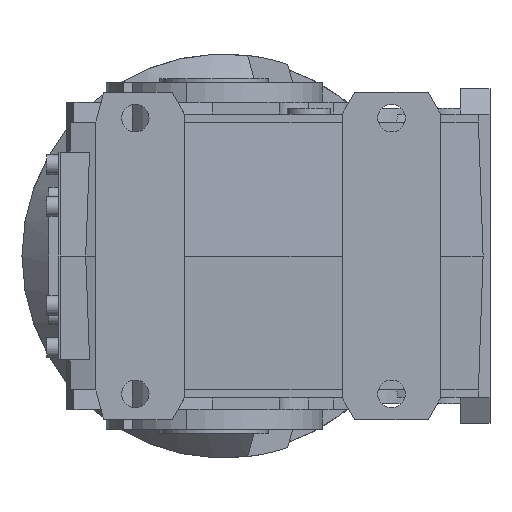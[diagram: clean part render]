
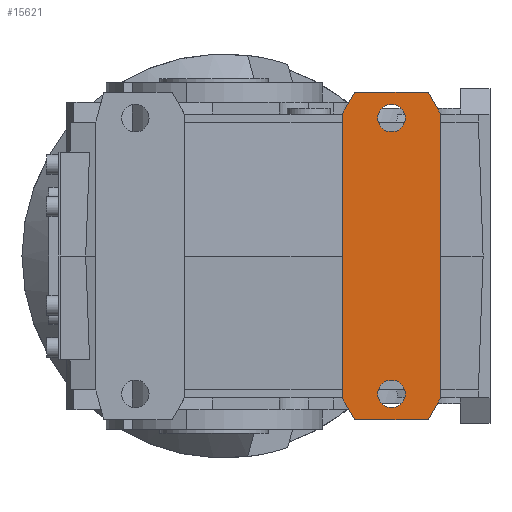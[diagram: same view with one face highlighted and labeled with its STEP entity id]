
A CAD part, left-side view. The second image highlights one B-rep face of the part: STEP entity #15621.
In plain terms, the highlighted planar face has unit normal (-1, 0, 0) as drawn and (1, 0, 0) by its records, which use the part's own axes.
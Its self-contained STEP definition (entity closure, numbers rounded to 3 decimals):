
#396=LINE('',#20797,#1554);
#397=LINE('',#20800,#1555);
#398=LINE('',#20802,#1556);
#399=LINE('',#20804,#1557);
#400=LINE('',#20806,#1558);
#401=LINE('',#20808,#1559);
#402=LINE('',#20810,#1560);
#403=LINE('',#20812,#1561);
#1554=VECTOR('',#17503,1000.);
#1555=VECTOR('',#17504,1000.);
#1556=VECTOR('',#17505,1000.);
#1557=VECTOR('',#17506,1000.);
#1558=VECTOR('',#17507,1000.);
#1559=VECTOR('',#17508,1000.);
#1560=VECTOR('',#17509,1000.);
#1561=VECTOR('',#17510,1000.);
#2739=ORIENTED_EDGE('',*,*,#5859,.F.);
#2740=ORIENTED_EDGE('',*,*,#5860,.F.);
#2741=ORIENTED_EDGE('',*,*,#5861,.F.);
#2742=ORIENTED_EDGE('',*,*,#5862,.T.);
#2743=ORIENTED_EDGE('',*,*,#5863,.T.);
#2744=ORIENTED_EDGE('',*,*,#5864,.T.);
#2745=ORIENTED_EDGE('',*,*,#5865,.T.);
#2746=ORIENTED_EDGE('',*,*,#5866,.T.);
#2747=ORIENTED_EDGE('',*,*,#5867,.T.);
#2748=ORIENTED_EDGE('',*,*,#5868,.T.);
#5859=EDGE_CURVE('',#7414,#7414,#8426,.T.);
#5860=EDGE_CURVE('',#7415,#7415,#8427,.T.);
#5861=EDGE_CURVE('',#7416,#7417,#396,.T.);
#5862=EDGE_CURVE('',#7416,#7418,#397,.T.);
#5863=EDGE_CURVE('',#7418,#7419,#398,.T.);
#5864=EDGE_CURVE('',#7419,#7420,#399,.T.);
#5865=EDGE_CURVE('',#7420,#7421,#400,.T.);
#5866=EDGE_CURVE('',#7421,#7422,#401,.T.);
#5867=EDGE_CURVE('',#7422,#7423,#402,.T.);
#5868=EDGE_CURVE('',#7423,#7417,#403,.T.);
#7414=VERTEX_POINT('',#20794);
#7415=VERTEX_POINT('',#20796);
#7416=VERTEX_POINT('',#20798);
#7417=VERTEX_POINT('',#20799);
#7418=VERTEX_POINT('',#20801);
#7419=VERTEX_POINT('',#20803);
#7420=VERTEX_POINT('',#20805);
#7421=VERTEX_POINT('',#20807);
#7422=VERTEX_POINT('',#20809);
#7423=VERTEX_POINT('',#20811);
#8426=CIRCLE('',#16330,7.);
#8427=CIRCLE('',#16331,7.);
#8781=EDGE_LOOP('',(#2739));
#8782=EDGE_LOOP('',(#2740));
#8783=EDGE_LOOP('',(#2741,#2742,#2743,#2744,#2745,#2746,#2747,#2748));
#9654=FACE_BOUND('',#8781,.T.);
#9655=FACE_BOUND('',#8782,.T.);
#9656=FACE_BOUND('',#8783,.T.);
#10533=PLANE('',#16329);
#15621=ADVANCED_FACE('',(#9654,#9655,#9656),#10533,.T.);
#16329=AXIS2_PLACEMENT_3D('',#20792,#17497,#17498);
#16330=AXIS2_PLACEMENT_3D('',#20793,#17499,#17500);
#16331=AXIS2_PLACEMENT_3D('',#20795,#17501,#17502);
#17497=DIRECTION('',(1.,0.,0.));
#17498=DIRECTION('',(0.,0.,-1.));
#17499=DIRECTION('',(1.,0.,0.));
#17500=DIRECTION('',(0.,0.,-1.));
#17501=DIRECTION('',(1.,0.,0.));
#17502=DIRECTION('',(0.,0.,-1.));
#17503=DIRECTION('',(0.,0.,1.));
#17504=DIRECTION('',(0.,0.5,-0.866));
#17505=DIRECTION('',(0.,1.,0.));
#17506=DIRECTION('',(0.,0.5,0.866));
#17507=DIRECTION('',(0.,0.,1.));
#17508=DIRECTION('',(0.,-0.5,0.866));
#17509=DIRECTION('',(0.,-1.,0.));
#17510=DIRECTION('',(0.,-0.5,-0.866));
#20792=CARTESIAN_POINT('',(282.,0.,0.));
#20793=CARTESIAN_POINT('',(282.,-85.,70.));
#20794=CARTESIAN_POINT('',(282.,-85.,63.));
#20795=CARTESIAN_POINT('',(282.,-85.,-70.));
#20796=CARTESIAN_POINT('',(282.,-85.,-77.));
#20797=CARTESIAN_POINT('',(282.,-110.,0.));
#20798=CARTESIAN_POINT('',(282.,-110.,-72.));
#20799=CARTESIAN_POINT('',(282.,-110.,72.));
#20800=CARTESIAN_POINT('',(282.,-110.,-72.));
#20801=CARTESIAN_POINT('',(282.,-103.649,-83.));
#20802=CARTESIAN_POINT('',(282.,-103.649,-83.));
#20803=CARTESIAN_POINT('',(282.,-66.351,-83.));
#20804=CARTESIAN_POINT('',(282.,-66.351,-83.));
#20805=CARTESIAN_POINT('',(282.,-60.,-72.));
#20806=CARTESIAN_POINT('',(282.,-60.,0.));
#20807=CARTESIAN_POINT('',(282.,-60.,72.));
#20808=CARTESIAN_POINT('',(282.,-60.,72.));
#20809=CARTESIAN_POINT('',(282.,-66.351,83.));
#20810=CARTESIAN_POINT('',(282.,-66.351,83.));
#20811=CARTESIAN_POINT('',(282.,-103.649,83.));
#20812=CARTESIAN_POINT('',(282.,-103.649,83.));
